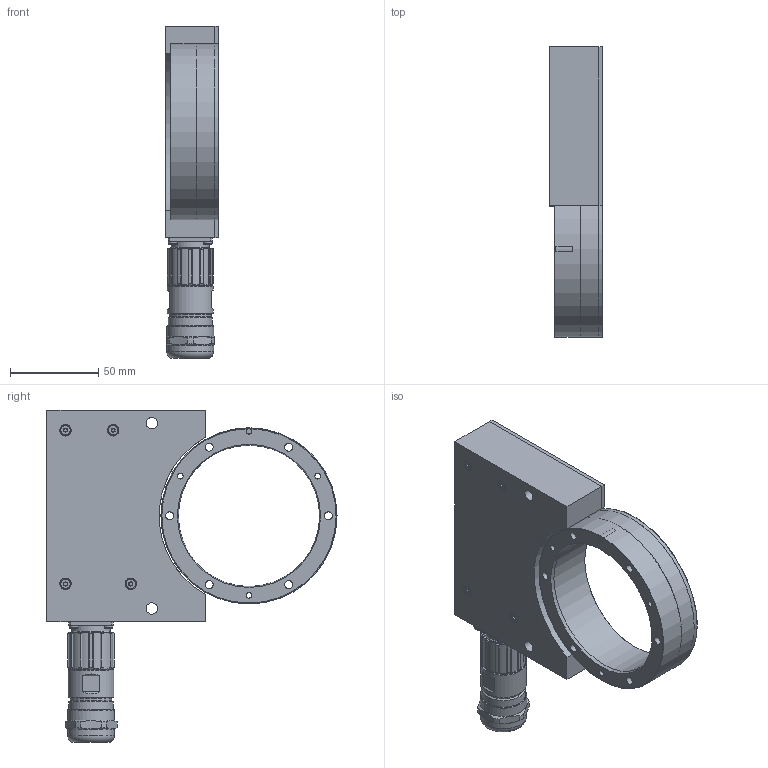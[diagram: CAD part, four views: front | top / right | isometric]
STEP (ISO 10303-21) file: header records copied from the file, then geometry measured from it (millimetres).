
FILE_DESCRIPTION(/* description */ (''),/* implementation_level */ '2;1');
FILE_NAME(/* name */ 'M:\__3D-Daten\Loeschen\Step\Baumer_MHGP100-B5-G80_CAD.stp',/* time_stamp */ '2018-07-30T16:48:34+02:00',/* author */ ('mbir'),/* organization */ (''),/* preprocessor_version */ 'ST-DEVELOPER v16.1',/* originating_system */ 'Autodesk Inventor 2016',/* authorisation */ '');
FILE_SCHEMA (('AUTOMOTIVE_DESIGN { 1 0 10303 214 3 1 1 }'));
Length unit declared in the file: centimetre
Products named in the file (1): Baumer_MHGP100-B5-G80_CAD
Bounding box: 30 x 164.43 x 188.15 mm (x, y, z)
Volume: 367329.7 mm3; surface area: 82057.9 mm2
Topology: 2 solids, 7 shells, 543 faces, 1290 edges, 833 vertices
Faces by surface type: cylinder 296, plane 164, torus 46, cone 37
Full cylindrical faces by diameter (mm): 2 x1, 2.459 x1, 2.9 x9, 3 x10, 3.2 x5, 3.242 x3, 3.5 x4, 4.5 x9, 5 x4, 5.5 x9, 6 x5, 6.5 x4, 12 x1, 17 x1, 17.3 x2, 19.8 x1, 20 x1, 21 x1, 21.8 x1, 22 x1, 22.8 x1, 23 x4, 23.2 x3, 23.541 x1, 25.001 x1, 26.001 x1, 26.5 x2, 80 x1, 97.36 x2, 98.76 x2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
Entity records: 14869 total; most frequent: DIRECTION 2806, CARTESIAN_POINT 2668, ORIENTED_EDGE 2138, AXIS2_PLACEMENT_3D 1230, EDGE_CURVE 1069, EDGE_LOOP 819, VERTEX_POINT 790, CIRCLE 658
